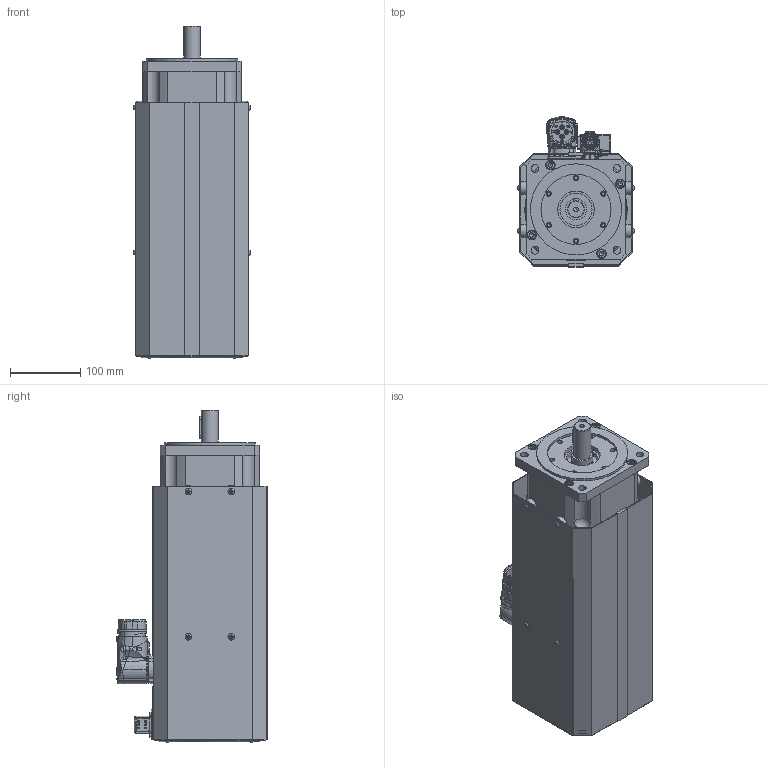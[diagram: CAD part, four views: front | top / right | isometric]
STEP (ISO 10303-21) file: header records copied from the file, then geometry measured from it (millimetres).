
FILE_DESCRIPTION(/* description */ (''),/* implementation_level */ '2;1');
FILE_NAME(/* name */ 'C:\Users\Public\Documents\Autodesk\Inventor LT 2014\Workspace\Motori Sito WEB\TG_5\DSF5_5\STEP_DSF5_5x\DSF5_53_x199.stp',/* time_stamp */ '2021-04-07T14:56:58+02:00',/* author */ ('marcor'),/* organization */ (''),/* preprocessor_version */ 'ST-DEVELOPER v15.2',/* originating_system */ 'Autodesk Inventor LT ',/* authorisation */ '');
FILE_SCHEMA (('AUTOMOTIVE_DESIGN { 1 0 10303 214 3 1 1 }'));
Products named in the file (1): DSF5_53_x199
Bounding box: 165.9 x 214.25 x 473.7 mm (x, y, z)
Volume: 6903357.6 mm3; surface area: 898037 mm2
Topology: 27 solids, 40 shells, 2177 faces, 5417 edges, 3510 vertices
Faces by surface type: plane 949, cylinder 487, cone 410, bspline 189, torus 105, sphere 37
Full cylindrical faces by diameter (mm): 1.2 x17, 2 x2, 2.2 x4, 2.224 x4, 2.4 x6, 2.5 x4, 2.88 x4, 3 x4, 3.26 x4, 3.5 x10, 3.6 x5, 4 x9, 4.134 x8, 4.5 x15, 4.8 x4, 4.917 x4, 5 x8, 5.4 x1, 5.5 x11, 5.9 x1, 6 x4, 6.5 x12, 6.647 x9, 7 x4, 7.5 x10, 8 x11, 8.5 x9, 10 x4, 11 x8, 12 x1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
Entity records: 71805 total; most frequent: CARTESIAN_POINT 22434, ORIENTED_EDGE 9624, DIRECTION 9426, EDGE_CURVE 4770, AXIS2_PLACEMENT_3D 3747, VERTEX_POINT 3332, EDGE_LOOP 2948, ADVANCED_FACE 2177
